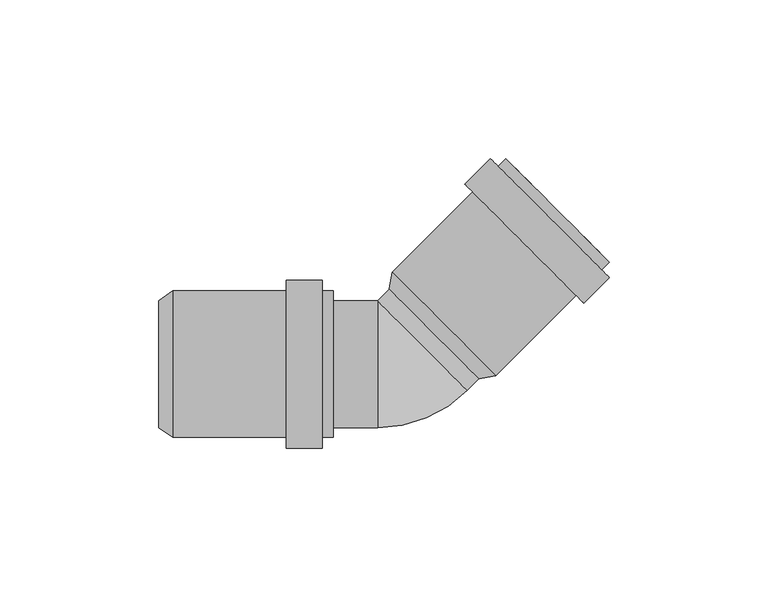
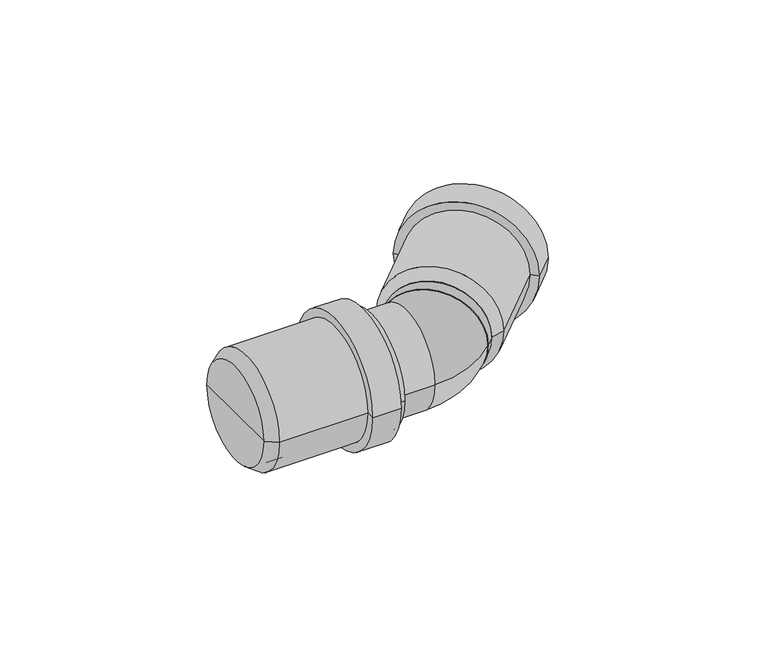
"""IFC4 building model written with IfcOpenShell, lengths in millimetres: pipe fitting geometry, pf_HTB : pf_HTB."""

from ifc_helpers import new_model, si_unit, point, frame, origin, origin_2d, place, context, project, spatial, polyline, circle_curve, ellipse_curve, trimmed, segment, composite_curve, outline, extrude, source, transform, mapped, element, save
from ifc_brep_helpers import plane_surface, cylinder_surface, revolved_surface, advanced_brep


def pipe_fitting_70bf791d(model_context):
    return source(origin(), model_context, "Body", "SolidModel", [
        advanced_brep(
        [(23.6880772, -4.5961941, 0.0), (-4.5961941, 23.6880772, 0.0), (-3.6769553, 28.991378, 0.0), (28.991378, -3.6769553, 0.0), (9.5459415, 9.5459415, 0.0), (64.7709812, 32.1026479, 0.0), (32.1026479, 64.7709812, 0.0), (34.2946789, 62.5789501, 0.0), (62.5789501, 34.2946789, 0.0), (62.3668181, 29.6984848, 0.0), (29.6984848, 62.3668181, 0.0), (64.7709812, 27.2943218, 0.0), (27.2943218, 64.7709812, 0.0), (56.7099639, 19.2333044, 0.0), (19.2333044, 56.7099639, 0.0), (54.3058008, 21.6374675, 0.0), (21.6374675, 54.3058008, 0.0), (26.799347, -1.4849242, 0.0), (-1.4849242, 26.799347, 0.0), (12.6572114, 12.6572114, 0.0)],
        [
            (0, 1, circle_curve(frame((9.5459415, 9.5459415, 0.0), z_axis=(0.7071067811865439, 0.7071067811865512, 0.0), x_axis=(-0.7071067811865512, 0.7071067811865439, 0.0)), 20.0)),
            (1, 2),
            (2, 3, circle_curve(frame((12.6572114, 12.6572114, 0.0), z_axis=(-0.7071067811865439, -0.7071067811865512, 0.0), x_axis=(-0.7071067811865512, 0.7071067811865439, 0.0)), 23.1)),
            (3, 0),
            (1, 0, circle_curve(frame((9.5459415, 9.5459415, 0.0), z_axis=(0.7071067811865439, 0.7071067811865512, 0.0), x_axis=(-0.7071067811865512, 0.7071067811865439, 0.0)), 20.0)),
            (3, 2, circle_curve(frame((12.6572114, 12.6572114, 0.0), z_axis=(-0.7071067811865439, -0.7071067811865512, 0.0), x_axis=(-0.7071067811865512, 0.7071067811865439, 0.0)), 23.1)),
            (4, 1),
            (0, 4),
            (5, 6, circle_curve(frame((48.4368145, 48.4368145, 0.0), z_axis=(0.7071067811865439, 0.7071067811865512, 0.0), x_axis=(-0.7071067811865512, 0.7071067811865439, 0.0)), 23.1)),
            (6, 7),
            (7, 8, circle_curve(frame((48.4368145, 48.4368145, 0.0), z_axis=(-0.7071067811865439, -0.7071067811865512, 0.0), x_axis=(-0.7071067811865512, 0.7071067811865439, 0.0)), 20.0)),
            (8, 5),
            (6, 5, circle_curve(frame((48.4368145, 48.4368145, 0.0), z_axis=(0.7071067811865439, 0.7071067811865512, 0.0), x_axis=(-0.7071067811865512, 0.7071067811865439, 0.0)), 23.1)),
            (8, 7, circle_curve(frame((48.4368145, 48.4368145, 0.0), z_axis=(-0.7071067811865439, -0.7071067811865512, 0.0), x_axis=(-0.7071067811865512, 0.7071067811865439, 0.0)), 20.0)),
            (9, 10, circle_curve(frame((46.0326515, 46.0326515, 0.0), z_axis=(0.7071067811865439, 0.7071067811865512, 0.0), x_axis=(-0.7071067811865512, 0.7071067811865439, 0.0)), 23.1)),
            (10, 6),
            (5, 9),
            (10, 9, circle_curve(frame((46.0326515, 46.0326515, 0.0), z_axis=(0.7071067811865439, 0.7071067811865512, 0.0), x_axis=(-0.7071067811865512, 0.7071067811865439, 0.0)), 23.1)),
            (11, 12, circle_curve(frame((46.0326515, 46.0326515, 0.0), z_axis=(0.7071067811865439, 0.7071067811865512, 0.0), x_axis=(-0.7071067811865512, 0.7071067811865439, 0.0)), 26.5)),
            (12, 10),
            (9, 11),
            (12, 11, circle_curve(frame((46.0326515, 46.0326515, 0.0), z_axis=(0.7071067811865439, 0.7071067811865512, 0.0), x_axis=(-0.7071067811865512, 0.7071067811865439, 0.0)), 26.5)),
            (13, 14, circle_curve(frame((37.9716341, 37.9716341, 0.0), z_axis=(0.7071067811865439, 0.7071067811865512, 0.0), x_axis=(-0.7071067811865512, 0.7071067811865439, 0.0)), 26.5)),
            (14, 12),
            (11, 13),
            (14, 13, circle_curve(frame((37.9716341, 37.9716341, 0.0), z_axis=(0.7071067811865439, 0.7071067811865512, 0.0), x_axis=(-0.7071067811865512, 0.7071067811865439, 0.0)), 26.5)),
            (15, 16, circle_curve(frame((37.9716341, 37.9716341, 0.0), z_axis=(0.7071067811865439, 0.7071067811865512, 0.0), x_axis=(-0.7071067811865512, 0.7071067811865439, 0.0)), 23.1)),
            (16, 14),
            (13, 15),
            (16, 15, circle_curve(frame((37.9716341, 37.9716341, 0.0), z_axis=(0.7071067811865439, 0.7071067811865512, 0.0), x_axis=(-0.7071067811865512, 0.7071067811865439, 0.0)), 23.1)),
            (2, 16),
            (15, 3),
            (17, 18, circle_curve(frame((12.6572114, 12.6572114, 0.0), z_axis=(0.7071067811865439, 0.7071067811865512, 0.0), x_axis=(-0.7071067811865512, 0.7071067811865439, 0.0)), 20.0)),
            (18, 19),
            (19, 17),
            (18, 17, circle_curve(frame((12.6572114, 12.6572114, 0.0), z_axis=(0.7071067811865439, 0.7071067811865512, 0.0), x_axis=(-0.7071067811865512, 0.7071067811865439, 0.0)), 20.0)),
            (7, 18),
            (17, 8),
        ],
        [
            revolved_surface(polyline([(-3.6769553, 28.991378, 0.0), (-4.5961941, 23.6880772, 0.0)]), (9.5459415, 9.5459415, 0.0), (-0.7071067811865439, -0.7071067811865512, 0.0)),
            plane_surface(frame((9.5459415, 9.5459415, 0.0), z_axis=(-0.7071067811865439, -0.7071067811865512, 0.0), x_axis=(-0.7071067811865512, 0.7071067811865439, 0.0))),
            plane_surface(frame((48.4368145, 48.4368145, 0.0), z_axis=(0.7071067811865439, 0.7071067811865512, 0.0), x_axis=(-0.7071067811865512, 0.7071067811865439, 0.0))),
            cylinder_surface(frame((9.5459415, 9.5459415, 0.0), z_axis=(-0.7071067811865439, -0.7071067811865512, 0.0), x_axis=(-0.7071067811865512, 0.7071067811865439, 0.0)), 23.1),
            plane_surface(frame((46.0326515, 46.0326515, 0.0), z_axis=(0.7071067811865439, 0.7071067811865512, 0.0), x_axis=(-0.7071067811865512, 0.7071067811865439, 0.0))),
            cylinder_surface(frame((9.5459415, 9.5459415, 0.0), z_axis=(-0.7071067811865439, -0.7071067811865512, 0.0), x_axis=(-0.7071067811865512, 0.7071067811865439, 0.0)), 26.5),
            plane_surface(frame((37.9716341, 37.9716341, 0.0), z_axis=(-0.7071067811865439, -0.7071067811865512, 0.0), x_axis=(-0.7071067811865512, 0.7071067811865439, 0.0))),
            plane_surface(frame((12.6572114, 12.6572114, 0.0), z_axis=(0.7071067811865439, 0.7071067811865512, 0.0), x_axis=(-0.7071067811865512, 0.7071067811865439, 0.0))),
            revolved_surface(polyline([(-1.4849242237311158, 26.79934702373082, 0.0), (34.294678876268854, 62.57895012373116, 0.0)]), (9.5459415, 9.5459415, 0.0), (-0.7071067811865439, -0.7071067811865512, 0.0)),
        ],
        [
            (0, [[1, 2, 3, 4]]),
            (0, [[5, -4, 6, -2]]),
            (1, [[7, -1, 8]]),
            (1, [[-8, -5, -7]]),
            (2, [[9, 10, 11, 12]]),
            (2, [[13, -12, 14, -10]]),
            (3, [[15, 16, -9, 17]]),
            (3, [[18, -17, -13, -16]]),
            (4, [[19, 20, -15, 21]]),
            (4, [[22, -21, -18, -20]]),
            (5, [[23, 24, -19, 25]]),
            (5, [[26, -25, -22, -24]]),
            (6, [[27, 28, -23, 29]]),
            (6, [[30, -29, -26, -28]]),
            (3, [[-3, 31, -27, 32]]),
            (3, [[-6, -32, -30, -31]]),
            (7, [[33, 34, 35]]),
            (7, [[36, -35, -34]]),
            (8, [[-11, 37, -33, 38]]),
            (8, [[-14, -38, -36, -37]]),
        ],
    ),
        advanced_brep(
        [(-77.3, -20.0, 0.0), (-77.3, 20.0, 0.0), (-72.9, 23.1, 0.0), (-72.9, -23.1, 0.0), (-77.3, 0.0, 0.0), (-22.3, -23.1, 0.0), (-22.3, 23.1, 0.0), (-22.3, 20.0, 0.0), (-22.3, -20.0, 0.0), (-25.7, -23.1, 0.0), (-25.7, 23.1, 0.0), (-25.7, -26.5, 0.0), (-25.7, 26.5, 0.0), (-37.1, -26.5, 0.0), (-37.1, 26.5, 0.0), (-37.1, -23.1, 0.0), (-37.1, 23.1, 0.0), (-72.9, -20.0, 0.0), (-72.9, 20.0, 0.0), (-72.9, 0.0, 0.0)],
        [
            (0, 1, circle_curve(frame((-77.3, 0.0, 0.0), z_axis=(1.0, 0.0, 0.0), x_axis=(0.0, 1.0, 0.0)), 20.0)),
            (1, 2),
            (2, 3, circle_curve(frame((-72.9, 0.0, 0.0), z_axis=(-1.0, 0.0, 0.0), x_axis=(0.0, 1.0, 0.0)), 23.1)),
            (3, 0),
            (1, 0, circle_curve(frame((-77.3, 0.0, 0.0), z_axis=(1.0, 0.0, 0.0), x_axis=(0.0, 1.0, 0.0)), 20.0)),
            (3, 2, circle_curve(frame((-72.9, 0.0, 0.0), z_axis=(-1.0, 0.0, 0.0), x_axis=(0.0, 1.0, 0.0)), 23.1)),
            (4, 1),
            (0, 4),
            (5, 6, circle_curve(frame((-22.3, 0.0, 0.0), z_axis=(1.0, 0.0, 0.0), x_axis=(0.0, 1.0, 0.0)), 23.1)),
            (6, 7),
            (7, 8, circle_curve(frame((-22.3, 0.0, 0.0), z_axis=(-1.0, 0.0, 0.0), x_axis=(0.0, 1.0, 0.0)), 20.0)),
            (8, 5),
            (6, 5, circle_curve(frame((-22.3, 0.0, 0.0), z_axis=(1.0, 0.0, 0.0), x_axis=(0.0, 1.0, 0.0)), 23.1)),
            (8, 7, circle_curve(frame((-22.3, 0.0, 0.0), z_axis=(-1.0, 0.0, 0.0), x_axis=(0.0, 1.0, 0.0)), 20.0)),
            (9, 10, circle_curve(frame((-25.7, 0.0, 0.0), z_axis=(1.0, 0.0, 0.0), x_axis=(0.0, 1.0, 0.0)), 23.1)),
            (10, 6),
            (5, 9),
            (10, 9, circle_curve(frame((-25.7, 0.0, 0.0), z_axis=(1.0, 0.0, 0.0), x_axis=(0.0, 1.0, 0.0)), 23.1)),
            (11, 12, circle_curve(frame((-25.7, 0.0, 0.0), z_axis=(1.0, 0.0, 0.0), x_axis=(0.0, 1.0, 0.0)), 26.5)),
            (12, 10),
            (9, 11),
            (12, 11, circle_curve(frame((-25.7, 0.0, 0.0), z_axis=(1.0, 0.0, 0.0), x_axis=(0.0, 1.0, 0.0)), 26.5)),
            (13, 14, circle_curve(frame((-37.1, 0.0, 0.0), z_axis=(1.0, 0.0, 0.0), x_axis=(0.0, 1.0, 0.0)), 26.5)),
            (14, 12),
            (11, 13),
            (14, 13, circle_curve(frame((-37.1, 0.0, 0.0), z_axis=(1.0, 0.0, 0.0), x_axis=(0.0, 1.0, 0.0)), 26.5)),
            (15, 16, circle_curve(frame((-37.1, 0.0, 0.0), z_axis=(1.0, 0.0, 0.0), x_axis=(0.0, 1.0, 0.0)), 23.1)),
            (16, 14),
            (13, 15),
            (16, 15, circle_curve(frame((-37.1, 0.0, 0.0), z_axis=(1.0, 0.0, 0.0), x_axis=(0.0, 1.0, 0.0)), 23.1)),
            (2, 16),
            (15, 3),
            (17, 18, circle_curve(frame((-72.9, 0.0, 0.0), z_axis=(1.0, 0.0, 0.0), x_axis=(0.0, 1.0, 0.0)), 20.0)),
            (18, 19),
            (19, 17),
            (18, 17, circle_curve(frame((-72.9, 0.0, 0.0), z_axis=(1.0, 0.0, 0.0), x_axis=(0.0, 1.0, 0.0)), 20.0)),
            (7, 18),
            (17, 8),
        ],
        [
            revolved_surface(polyline([(-72.9, 23.1, 0.0), (-77.3, 20.0, 0.0)]), (-77.3, 0.0, 0.0), (-1.0, 0.0, 0.0)),
            plane_surface(frame((-77.3, 0.0, 0.0), z_axis=(-1.0, 0.0, 0.0), x_axis=(0.0, 1.0, 0.0))),
            plane_surface(frame((-22.3, 0.0, 0.0), z_axis=(1.0, 0.0, 0.0), x_axis=(0.0, 1.0, 0.0))),
            cylinder_surface(frame((-77.3, 0.0, 0.0), z_axis=(-1.0, 0.0, 0.0), x_axis=(0.0, 1.0, 0.0)), 23.1),
            plane_surface(frame((-25.7, 0.0, 0.0), z_axis=(1.0, 0.0, 0.0), x_axis=(0.0, 1.0, 0.0))),
            cylinder_surface(frame((-77.3, 0.0, 0.0), z_axis=(-1.0, 0.0, 0.0), x_axis=(0.0, 1.0, 0.0)), 26.5),
            plane_surface(frame((-37.1, 0.0, 0.0), z_axis=(-1.0, 0.0, 0.0), x_axis=(0.0, 1.0, 0.0))),
            plane_surface(frame((-72.9, 0.0, 0.0), z_axis=(1.0, 0.0, 0.0), x_axis=(0.0, 1.0, 0.0))),
            revolved_surface(polyline([(-72.9, 20.0, 0.0), (-22.299999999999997, 20.0, 0.0)]), (-77.3, 0.0, 0.0), (-1.0, 0.0, 0.0)),
        ],
        [
            (0, [[1, 2, 3, 4]]),
            (0, [[5, -4, 6, -2]]),
            (1, [[7, -1, 8]]),
            (1, [[-8, -5, -7]]),
            (2, [[9, 10, 11, 12]]),
            (2, [[13, -12, 14, -10]]),
            (3, [[15, 16, -9, 17]]),
            (3, [[18, -17, -13, -16]]),
            (4, [[19, 20, -15, 21]]),
            (4, [[22, -21, -18, -20]]),
            (5, [[23, 24, -19, 25]]),
            (5, [[26, -25, -22, -24]]),
            (6, [[27, 28, -23, 29]]),
            (6, [[30, -29, -26, -28]]),
            (3, [[-3, 31, -27, 32]]),
            (3, [[-6, -32, -30, -31]]),
            (7, [[33, 34, 35]]),
            (7, [[36, -35, -34]]),
            (8, [[-11, 37, -33, 38]]),
            (8, [[-14, -38, -36, -37]]),
        ],
    ),
        extrude(outline(composite_curve([segment(trimmed(circle_curve(origin_2d(), 20.0), [point((0.0, -20.0))], [point((0.0, 20.0))], False, "CARTESIAN"), True, "CONTINUOUS"), segment(trimmed(circle_curve(origin_2d(), 20.0), [point((0.0, 20.0))], [point((0.0, -20.0))], False, "CARTESIAN"), True, "CONTINUOUS")], self_intersect=False)), frame((5.8578644, 5.8578644, 0.0), z_axis=(0.7071067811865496, 0.7071067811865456, 0.0), x_axis=(0.0, 0.0, 1.0)), (0.0, 0.0, 1.0), 9.6157288),
        extrude(outline(composite_curve([segment(trimmed(circle_curve(origin_2d(), 20.0), [point((-20.0, 0.0))], [point((20.0, 0.0))], False, "CARTESIAN"), True, "CONTINUOUS"), segment(trimmed(circle_curve(origin_2d(), 20.0), [point((20.0, 0.0))], [point((-20.0, 0.0))], False, "CARTESIAN"), True, "CONTINUOUS")], self_intersect=False)), frame((-72.9, 0.0, 0.0), z_axis=(1.0, 0.0, 0.0), x_axis=(0.0, 1.0, 0.0)), (0.0, 0.0, 1.0), 64.6157288),
        advanced_brep(
        [(-8.2842712, -20.0, 0.0), (-8.2842712, 20.0, 0.0), (20.0, -8.2842712, 0.0)],
        [
            (0, 1, circle_curve(frame((-8.2842712, 0.0, 0.0), z_axis=(-1.0, 0.0, 0.0), x_axis=(0.0, 1.0, 0.0)), 20.0)),
            (1, 0, circle_curve(frame((-8.2842712, 0.0, 0.0), z_axis=(-1.0, 0.0, 0.0), x_axis=(0.0, 1.0, 0.0)), 20.0)),
            (2, 1, circle_curve(frame((5.8578644, 5.8578644, 0.0), z_axis=(0.7071067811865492, 0.7071067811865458, 0.0), x_axis=(-0.7071067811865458, 0.7071067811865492, 0.0)), 20.0)),
            (1, 2, circle_curve(frame((5.8578644, 5.8578644, 0.0), z_axis=(0.7071067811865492, 0.7071067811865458, 0.0), x_axis=(-0.7071067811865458, 0.7071067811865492, 0.0)), 20.0)),
            (2, 0, circle_curve(frame((-8.2842712, 20.0, 0.0), z_axis=(0.0, 0.0, -1.0), x_axis=(0.0, -1.0, 0.0)), 40.0)),
        ],
        [
            plane_surface(frame((-8.2842712, 20.0, -14.8), z_axis=(-1.0, 0.0, 0.0), x_axis=(0.0, -1.0, 0.0))),
            plane_surface(frame((-8.2842712, 20.0, -14.8), z_axis=(0.7071067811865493, 0.7071067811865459, 0.0), x_axis=(0.7071067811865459, -0.7071067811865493, 0.0))),
            revolved_surface(trimmed(ellipse_curve(frame((-8.2842712, 0.0, 0.0), z_axis=(1.0, 0.0, 0.0), x_axis=(0.0, 1.0, 0.0)), 20.0, 20.0), [point((-8.2842712, -20.0, 0.0))], [point((-8.2842712, 20.0, 0.0))], True, "CARTESIAN"), (-8.2842712, 20.0, -14.8), (0.0, 0.0, -1.0)),
            revolved_surface(trimmed(ellipse_curve(frame((-8.2842712, 0.0, 0.0), z_axis=(1.0, 0.0, 0.0), x_axis=(0.0, 1.0, 0.0)), 20.0, 20.0), [point((-8.2842712, 20.0, 0.0))], [point((-8.2842712, -20.0, 0.0))], True, "CARTESIAN"), (-8.2842712, 20.0, -14.8), (0.0, 0.0, -1.0)),
        ],
        [
            (0, [[1, 2]]),
            (1, [[3, 4]]),
            (2, [[5, -2, -3]]),
            (3, [[-1, -5, -4]]),
        ],
    ),
    ])


if __name__ == "__main__":
    model = new_model("IFC4")
    model_context = context("Model", 3, world=origin())
    ifc_project = project(units=[si_unit("LENGTHUNIT", "METRE", prefix="MILLI")], contexts=[model_context])
    site = spatial("IfcSite", under=ifc_project)
    building = spatial("IfcBuilding", under=site)
    placement = place(None, origin())
    pipe_fitting_shape = pipe_fitting_70bf791d(model_context)
    element("IfcPipeFitting", 1, ObjectType="pf_HTB : pf_HTB", at=placement, inside=building, context=model_context, shape_type="MappedRepresentation", body=[
        mapped(pipe_fitting_shape, transform((0.0, 0.0, 0.0), x_axis=(1.0, 0.0, 0.0), y_axis=(0.0, 1.0, 0.0), z_axis=(0.0, 0.0, 1.0))),
    ])
    save(model, "model.ifc")
